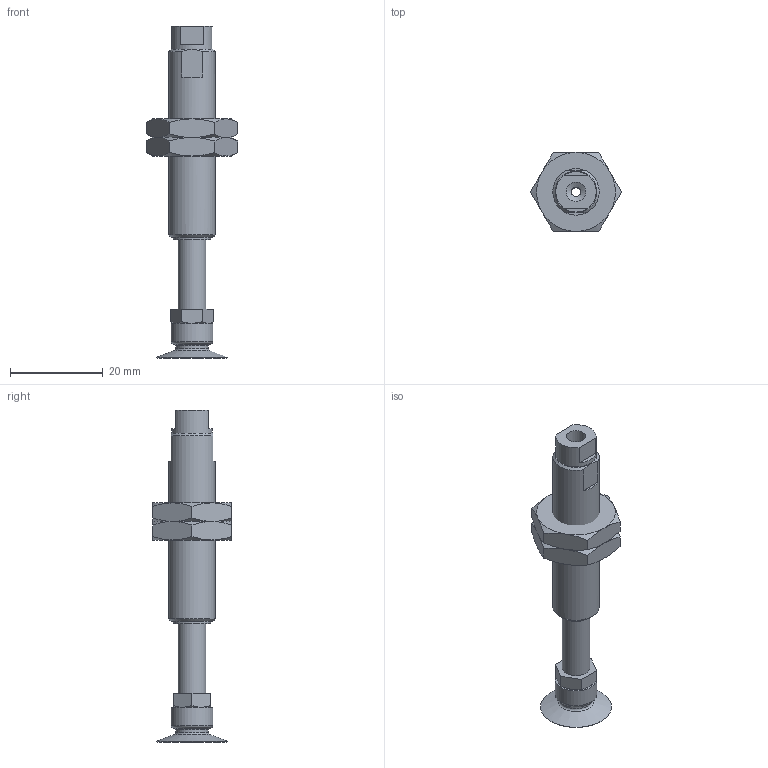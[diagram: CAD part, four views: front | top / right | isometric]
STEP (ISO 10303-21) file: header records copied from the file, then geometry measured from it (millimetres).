
FILE_DESCRIPTION(('STEP AP203'),'1');
FILE_NAME('-LB.stp','2025-10-10T05:18:13',(' '),(' '),'Spatial InterOp 3D',' ',' ');
FILE_SCHEMA(('CONFIG_CONTROL_DESIGN'));
Length unit declared in the file: millimetre
Products named in the file (8): BNAPFTH-10A-15-※-LB; NUT; __; BODY; TN-PS-10-M5; Setting screws-TN-PS-10-M5; BPAG-15A-※
Assembly tree (7 placements, depth 3):
  BNAPFTH-10A-15-※-LB
    NUT
    NUT
    __
    BODY
    TN-PS-10-M5
      Setting screws-TN-PS-10-M5
    BPAG-15A-※
Bounding box: 19.63 x 17 x 71.5 mm (x, y, z)
Volume: 5610.8 mm3; surface area: 4881.7 mm2
Topology: 6 solids, 6 shells, 157 faces, 313 edges, 192 vertices
Faces by surface type: plane 74, cone 40, cylinder 35, torus 8
Full cylindrical faces by diameter (mm): 0.9 x16, 2 x3, 3.9 x1, 4 x2, 4.2 x2, 5 x1, 6 x3, 7 x1, 8 x1, 8.7 x1, 9 x3, 10 x1
Entity records: 4234 total; most frequent: CARTESIAN_POINT 834, DIRECTION 648, ORIENTED_EDGE 506, AXIS2_PLACEMENT_3D 293, EDGE_CURVE 253, EDGE_LOOP 244, FACE_OUTER_BOUND 200, VERTEX_POINT 183
